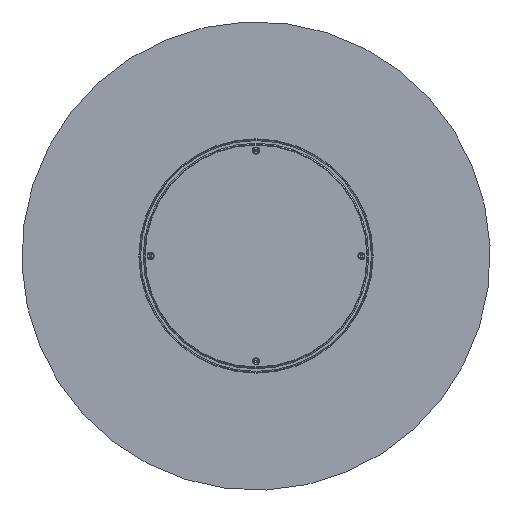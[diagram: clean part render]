
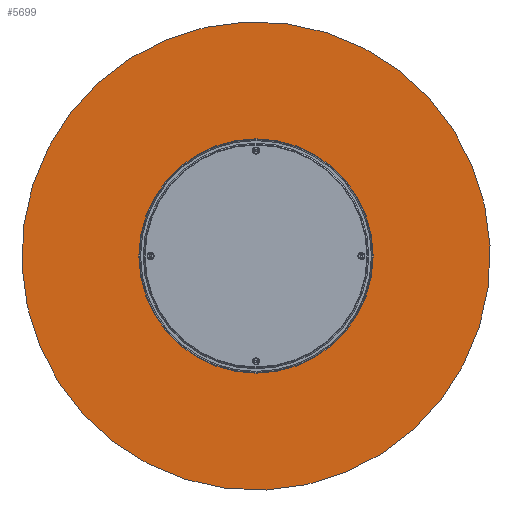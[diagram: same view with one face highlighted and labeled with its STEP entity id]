
A CAD part, front view. The second image highlights one B-rep face of the part: STEP entity #5699.
In plain terms, the highlighted planar face has unit normal (0, -1, 0).
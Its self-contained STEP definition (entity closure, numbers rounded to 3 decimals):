
#2 = AXIS2_PLACEMENT_3D ( 'NONE', #155, #4312, #4860 ) ;
#51 = CARTESIAN_POINT ( 'NONE',  ( 0., 0., 0. ) ) ;
#74 = AXIS2_PLACEMENT_3D ( 'NONE', #51, #4212, #3767 ) ;
#117 = EDGE_LOOP ( 'NONE', ( #790, #526 ) ) ;
#155 = CARTESIAN_POINT ( 'NONE',  ( 0., 0., 0. ) ) ;
#439 = CARTESIAN_POINT ( 'NONE',  ( 0., 0., -400. ) ) ;
#526 = ORIENTED_EDGE ( 'NONE', *, *, #798, .T. ) ;
#657 = CIRCLE ( 'NONE', #74, 400. ) ;
#790 = ORIENTED_EDGE ( 'NONE', *, *, #4058, .T. ) ;
#798 = EDGE_CURVE ( 'NONE', #5378, #2037, #3785, .T. ) ;
#2037 = VERTEX_POINT ( 'NONE', #439 ) ;
#2040 = AXIS2_PLACEMENT_3D ( 'NONE', #5791, #5821, #2094 ) ;
#2094 = DIRECTION ( 'NONE',  ( 0., 0., -1. ) ) ;
#3767 = DIRECTION ( 'NONE',  ( 0., 0., -1. ) ) ;
#3785 = CIRCLE ( 'NONE', #2, 400. ) ;
#3829 = PLANE ( 'NONE',  #2040 ) ;
#4058 = EDGE_CURVE ( 'NONE', #2037, #5378, #657, .T. ) ;
#4212 = DIRECTION ( 'NONE',  ( 0., -1., 0. ) ) ;
#4312 = DIRECTION ( 'NONE',  ( 0., -1., 0. ) ) ;
#4639 = CARTESIAN_POINT ( 'NONE',  ( 0., 0., 400. ) ) ;
#4779 = FACE_OUTER_BOUND ( 'NONE', #117, .T. ) ;
#4860 = DIRECTION ( 'NONE',  ( 0., 0., -1. ) ) ;
#5378 = VERTEX_POINT ( 'NONE', #4639 ) ;
#5699 = ADVANCED_FACE ( 'NONE', ( #4779 ), #3829, .T. ) ;
#5791 = CARTESIAN_POINT ( 'NONE',  ( 0., 0., 0. ) ) ;
#5821 = DIRECTION ( 'NONE',  ( 0., -1., 0. ) ) ;
